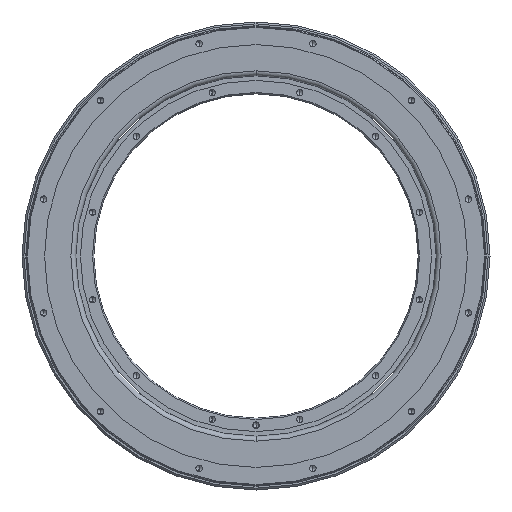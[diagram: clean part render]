
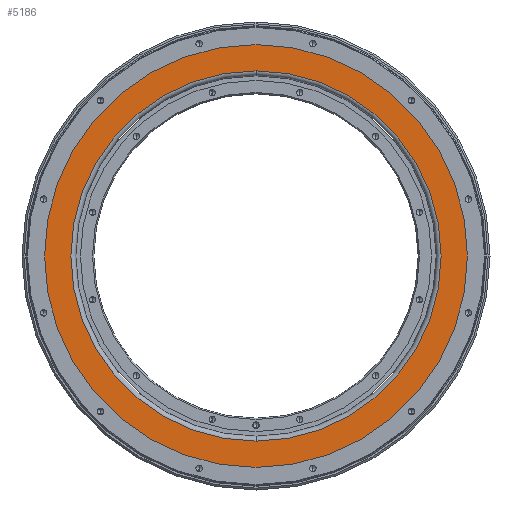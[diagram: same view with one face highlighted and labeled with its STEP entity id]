
A CAD part, front view. The second image highlights one B-rep face of the part: STEP entity #5186.
In plain terms, the highlighted planar face has unit normal (0, -1, 0).
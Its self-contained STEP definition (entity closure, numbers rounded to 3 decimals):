
#231 = EDGE_CURVE ( 'NONE', #4642, #790, #8132, .T. ) ;
#396 = EDGE_CURVE ( 'NONE', #790, #4642, #7788, .T. ) ;
#552 = FACE_OUTER_BOUND ( 'NONE', #801, .T. ) ;
#745 = ORIENTED_EDGE ( 'NONE', *, *, #396, .T. ) ;
#790 = VERTEX_POINT ( 'NONE', #6960 ) ;
#801 = EDGE_LOOP ( 'NONE', ( #1482, #7587 ) ) ;
#1026 = DIRECTION ( 'NONE',  ( 0., -1., 0. ) ) ;
#1058 = CARTESIAN_POINT ( 'NONE',  ( -225., 3., 0. ) ) ;
#1340 = CARTESIAN_POINT ( 'NONE',  ( 0., 3., 225. ) ) ;
#1482 = ORIENTED_EDGE ( 'NONE', *, *, #4763, .T. ) ;
#1562 = AXIS2_PLACEMENT_3D ( 'NONE', #2057, #2025, #5743 ) ;
#1569 = CARTESIAN_POINT ( 'NONE',  ( 0., 3., -197. ) ) ;
#1633 = DIRECTION ( 'NONE',  ( 0., 0., -1. ) ) ;
#1716 = DIRECTION ( 'NONE',  ( 0., 1., 0. ) ) ;
#2025 = DIRECTION ( 'NONE',  ( 0., 1., 0. ) ) ;
#2057 = CARTESIAN_POINT ( 'NONE',  ( 0., 3., 0. ) ) ;
#2215 = CARTESIAN_POINT ( 'NONE',  ( 0., 3., 0. ) ) ;
#2385 = PLANE ( 'NONE',  #2708 ) ;
#2663 = DIRECTION ( 'NONE',  ( 0., 0., -1. ) ) ;
#2708 = AXIS2_PLACEMENT_3D ( 'NONE', #1058, #1716, #4681 ) ;
#2765 = EDGE_LOOP ( 'NONE', ( #745, #7202 ) ) ;
#2820 = CARTESIAN_POINT ( 'NONE',  ( 0., 3., -225. ) ) ;
#3153 = CARTESIAN_POINT ( 'NONE',  ( 0., 3., 0. ) ) ;
#3537 = AXIS2_PLACEMENT_3D ( 'NONE', #6937, #5565, #2663 ) ;
#4341 = DIRECTION ( 'NONE',  ( 0., 0., 1. ) ) ;
#4642 = VERTEX_POINT ( 'NONE', #1569 ) ;
#4681 = DIRECTION ( 'NONE',  ( 0., 0., 1. ) ) ;
#4763 = EDGE_CURVE ( 'NONE', #9382, #9024, #9339, .T. ) ;
#5186 = ADVANCED_FACE ( 'NONE', ( #7384, #552 ), #2385, .F. ) ;
#5331 = CIRCLE ( 'NONE', #3537, 225. ) ;
#5565 = DIRECTION ( 'NONE',  ( 0., -1., 0. ) ) ;
#5743 = DIRECTION ( 'NONE',  ( 0., 0., 1. ) ) ;
#6643 = AXIS2_PLACEMENT_3D ( 'NONE', #2215, #7261, #4341 ) ;
#6937 = CARTESIAN_POINT ( 'NONE',  ( 0., 3., 0. ) ) ;
#6960 = CARTESIAN_POINT ( 'NONE',  ( 0., 3., 197. ) ) ;
#6961 = EDGE_CURVE ( 'NONE', #9024, #9382, #5331, .T. ) ;
#7202 = ORIENTED_EDGE ( 'NONE', *, *, #231, .T. ) ;
#7261 = DIRECTION ( 'NONE',  ( 0., 1., 0. ) ) ;
#7384 = FACE_BOUND ( 'NONE', #2765, .T. ) ;
#7587 = ORIENTED_EDGE ( 'NONE', *, *, #6961, .T. ) ;
#7788 = CIRCLE ( 'NONE', #6643, 197. ) ;
#8132 = CIRCLE ( 'NONE', #1562, 197. ) ;
#8301 = AXIS2_PLACEMENT_3D ( 'NONE', #3153, #1026, #1633 ) ;
#9024 = VERTEX_POINT ( 'NONE', #1340 ) ;
#9339 = CIRCLE ( 'NONE', #8301, 225. ) ;
#9382 = VERTEX_POINT ( 'NONE', #2820 ) ;
